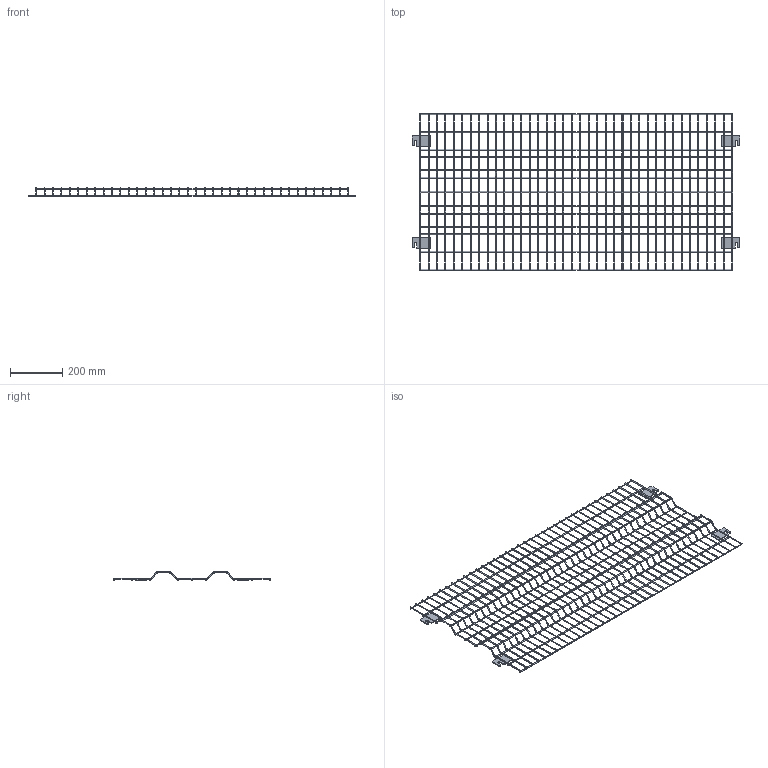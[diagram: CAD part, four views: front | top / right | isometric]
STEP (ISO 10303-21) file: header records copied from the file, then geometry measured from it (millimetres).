
FILE_DESCRIPTION (( 'STEP AP203' ), '1' );
FILE_NAME ('Frameless Panel 1200 x 600.STEP', '2023-09-15T16:46:40', ( '' ), ( '' ), 'SwSTEP 2.0', 'SolidWorks 2023', '' );
FILE_SCHEMA (( 'CONFIG_CONTROL_DESIGN' ));
Length unit declared in the file: millimetre
Products named in the file (1): Frameless Panel 1200 x 600
Bounding box: 1256 x 600 x 32 mm (x, y, z)
Volume: 542979.1 mm3; surface area: 530717.7 mm2
Topology: 55 solids, 55 shells, 1560 faces, 3058 edges, 1608 vertices
Faces by surface type: cylinder 814, torus 608, plane 138
Entity records: 39455 total; most frequent: DIRECTION 8340, CARTESIAN_POINT 6227, ORIENTED_EDGE 6116, AXIS2_PLACEMENT_3D 3721, EDGE_CURVE 3058, CIRCLE 2160, VERTEX_POINT 1608, ADVANCED_FACE 1560
